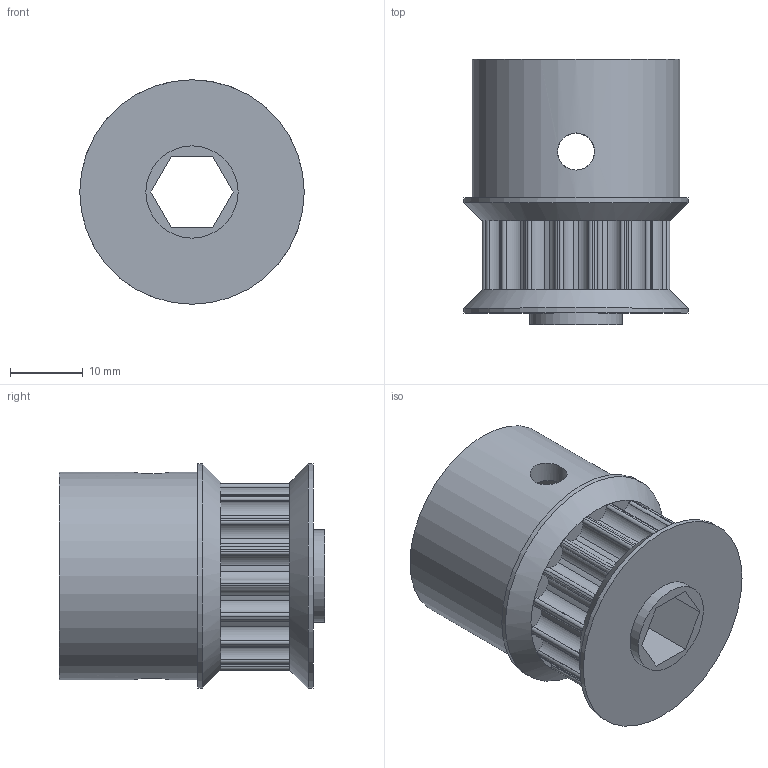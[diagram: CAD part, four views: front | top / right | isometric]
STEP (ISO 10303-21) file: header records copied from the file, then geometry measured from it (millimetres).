
FILE_DESCRIPTION(/* description */ ('STEP AP242 Edition 2','CAx-IF Rec.Pracs.---Representation and Presentation of Product Manufacturing Information (PMI)---4.0---2014-10-13','CAx-IF Rec.Pracs.---3D Tessellated Geometry---0.4---2014-09-14','2;1','CAx-IF Rec.Pracs.---User Defined Attributes---1.5---2016-08-15'),/* implementation_level */ '2;1');
FILE_NAME(/* name */ '693315666c1d25cabc4fd80a',/* time_stamp */ '2025-12-05T17:24:54Z',/* author */ (''),/* organization */ (''),/* preprocessor_version */ 'ST-DEVELOPER v20',/* originating_system */ 'ONSHAPE BY PTC INC, 1.207',/* authorisation */ ' ');
FILE_SCHEMA (('AP242_MANAGED_MODEL_BASED_3D_ENGINEERING_MIM_LF { 1 0 10303 442 3 1 4 }'));
Length unit declared in the file: metre
Products named in the file (1): 17T Live Axle Roller Insert
Bounding box: 30.91 x 36.51 x 30.91 mm (x, y, z)
Volume: 14411 mm3; surface area: 7013.5 mm2
Topology: 1 solids, 1 shells, 200 faces, 523 edges, 326 vertices
Faces by surface type: cylinder 110, plane 88, cone 2
Full cylindrical faces by diameter (mm): 5.105 x2, 12.7 x1, 28.575 x1, 30.913 x2
Entity records: 6126 total; most frequent: DIRECTION 1160, CARTESIAN_POINT 1049, ORIENTED_EDGE 1016, EDGE_CURVE 508, AXIS2_PLACEMENT_3D 453, VERTEX_POINT 320, LINE 254, VECTOR 254
